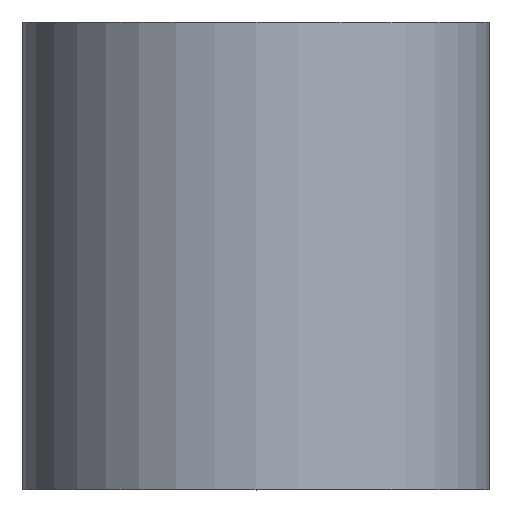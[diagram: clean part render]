
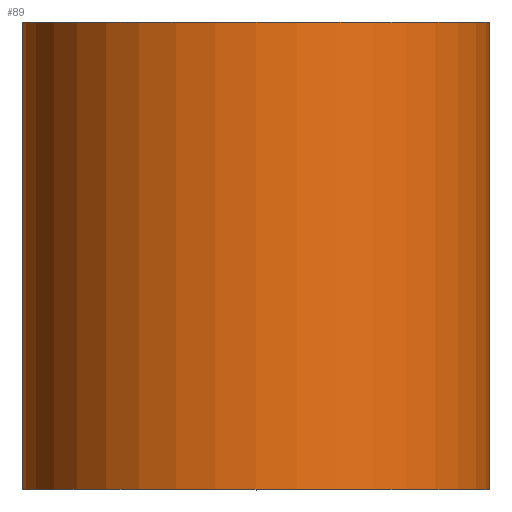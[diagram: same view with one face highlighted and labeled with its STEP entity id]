
A CAD part, top view. The second image highlights one B-rep face of the part: STEP entity #89.
In plain terms, the highlighted cylindrical face has radius 4 mm (diameter 8 mm), a partial arc.
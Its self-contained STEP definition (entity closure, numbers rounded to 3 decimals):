
#2 = VECTOR ( 'NONE', #182, 1000. ) ;
#5 = CARTESIAN_POINT ( 'NONE',  ( 4., 0., 0. ) ) ;
#8 = DIRECTION ( 'NONE',  ( -1., 0., 0. ) ) ;
#13 = CIRCLE ( 'NONE', #29, 4. ) ;
#18 = AXIS2_PLACEMENT_3D ( 'NONE', #100, #284, #261 ) ;
#29 = AXIS2_PLACEMENT_3D ( 'NONE', #265, #114, #137 ) ;
#41 = CARTESIAN_POINT ( 'NONE',  ( -4., 8., 0. ) ) ;
#59 = LINE ( 'NONE', #127, #74 ) ;
#64 = VERTEX_POINT ( 'NONE', #5 ) ;
#74 = VECTOR ( 'NONE', #104, 1000. ) ;
#77 = ORIENTED_EDGE ( 'NONE', *, *, #192, .T. ) ;
#85 = CARTESIAN_POINT ( 'NONE',  ( 0., 0., 0. ) ) ;
#89 = ADVANCED_FACE ( 'NONE', ( #190 ), #103, .T. ) ;
#100 = CARTESIAN_POINT ( 'NONE',  ( 0., 0., 0. ) ) ;
#103 = CYLINDRICAL_SURFACE ( 'NONE', #18, 4. ) ;
#104 = DIRECTION ( 'NONE',  ( 0., 1., 0. ) ) ;
#114 = DIRECTION ( 'NONE',  ( 0., 1., 0. ) ) ;
#115 = EDGE_LOOP ( 'NONE', ( #77, #152, #224, #149 ) ) ;
#127 = CARTESIAN_POINT ( 'NONE',  ( -4., 0., 0. ) ) ;
#137 = DIRECTION ( 'NONE',  ( -1., 0., 0. ) ) ;
#149 = ORIENTED_EDGE ( 'NONE', *, *, #151, .F. ) ;
#151 = EDGE_CURVE ( 'NONE', #270, #227, #59, .T. ) ;
#152 = ORIENTED_EDGE ( 'NONE', *, *, #249, .T. ) ;
#181 = DIRECTION ( 'NONE',  ( 0., 1., 0. ) ) ;
#182 = DIRECTION ( 'NONE',  ( 0., 1., 0. ) ) ;
#188 = AXIS2_PLACEMENT_3D ( 'NONE', #85, #181, #8 ) ;
#190 = FACE_OUTER_BOUND ( 'NONE', #115, .T. ) ;
#192 = EDGE_CURVE ( 'NONE', #270, #64, #295, .T. ) ;
#222 = CARTESIAN_POINT ( 'NONE',  ( 4., 0., 0. ) ) ;
#224 = ORIENTED_EDGE ( 'NONE', *, *, #267, .F. ) ;
#227 = VERTEX_POINT ( 'NONE', #41 ) ;
#229 = LINE ( 'NONE', #222, #2 ) ;
#243 = CARTESIAN_POINT ( 'NONE',  ( -4., 0., 0. ) ) ;
#249 = EDGE_CURVE ( 'NONE', #64, #291, #229, .T. ) ;
#261 = DIRECTION ( 'NONE',  ( -1., 0., 0. ) ) ;
#265 = CARTESIAN_POINT ( 'NONE',  ( 0., 8., 0. ) ) ;
#266 = CARTESIAN_POINT ( 'NONE',  ( 4., 8., 0. ) ) ;
#267 = EDGE_CURVE ( 'NONE', #227, #291, #13, .T. ) ;
#270 = VERTEX_POINT ( 'NONE', #243 ) ;
#284 = DIRECTION ( 'NONE',  ( 0., 1., 0. ) ) ;
#291 = VERTEX_POINT ( 'NONE', #266 ) ;
#295 = CIRCLE ( 'NONE', #188, 4. ) ;
